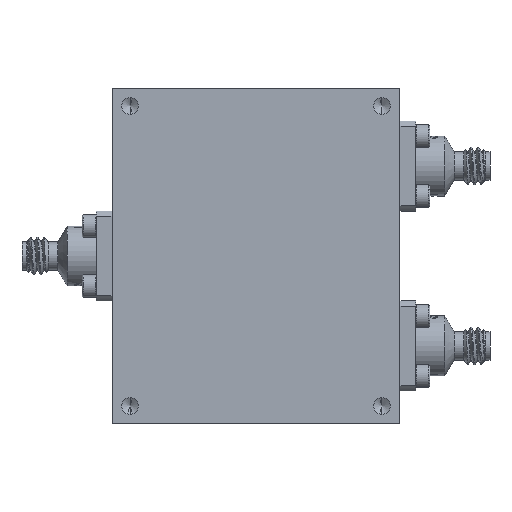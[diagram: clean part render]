
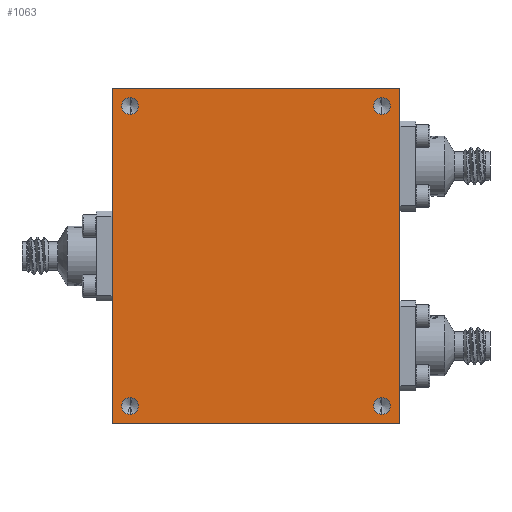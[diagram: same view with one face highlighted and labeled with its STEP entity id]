
A CAD part, front view. The second image highlights one B-rep face of the part: STEP entity #1063.
In plain terms, the highlighted planar face has unit normal (0, -1, 0).
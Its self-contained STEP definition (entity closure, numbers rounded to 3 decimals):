
#295 = VERTEX_POINT ( 'NONE', #14854 ) ;
#460 = DIRECTION ( 'NONE',  ( 0., 0., 1. ) ) ;
#485 = LINE ( 'NONE', #6801, #8363 ) ;
#548 = FACE_OUTER_BOUND ( 'NONE', #14805, .T. ) ;
#570 = CARTESIAN_POINT ( 'NONE',  ( -13.335, 0., -15.875 ) ) ;
#740 = CARTESIAN_POINT ( 'NONE',  ( 13.335, 0., 15.875 ) ) ;
#891 = ORIENTED_EDGE ( 'NONE', *, *, #10908, .F. ) ;
#900 = DIRECTION ( 'NONE',  ( 0., 0., -1. ) ) ;
#1027 = AXIS2_PLACEMENT_3D ( 'NONE', #15390, #9189, #11743 ) ;
#1056 = EDGE_LOOP ( 'NONE', ( #11579, #8454 ) ) ;
#1063 = ADVANCED_FACE ( 'NONE', ( #1938, #1693, #9067, #5463, #548 ), #8081, .F. ) ;
#1221 = DIRECTION ( 'NONE',  ( 0., 0., -1. ) ) ;
#1467 = EDGE_CURVE ( 'NONE', #12141, #9482, #7664, .T. ) ;
#1469 = CARTESIAN_POINT ( 'NONE',  ( 13.335, 0., 15.875 ) ) ;
#1693 = FACE_BOUND ( 'NONE', #1056, .T. ) ;
#1712 = CARTESIAN_POINT ( 'NONE',  ( 13.335, 0., -15.875 ) ) ;
#1938 = FACE_BOUND ( 'NONE', #5716, .T. ) ;
#2044 = DIRECTION ( 'NONE',  ( 0., 0., -1. ) ) ;
#2133 = CARTESIAN_POINT ( 'NONE',  ( 13.335, 0., -15.875 ) ) ;
#2211 = DIRECTION ( 'NONE',  ( 0., 0., -1. ) ) ;
#2361 = DIRECTION ( 'NONE',  ( 0., 0., -1. ) ) ;
#2475 = EDGE_LOOP ( 'NONE', ( #3733, #15072 ) ) ;
#2592 = AXIS2_PLACEMENT_3D ( 'NONE', #8748, #4886, #2361 ) ;
#3543 = LINE ( 'NONE', #16211, #10704 ) ;
#3733 = ORIENTED_EDGE ( 'NONE', *, *, #9626, .F. ) ;
#3970 = AXIS2_PLACEMENT_3D ( 'NONE', #4390, #14124, #460 ) ;
#4013 = ORIENTED_EDGE ( 'NONE', *, *, #9458, .F. ) ;
#4256 = DIRECTION ( 'NONE',  ( 0., 0., 1. ) ) ;
#4390 = CARTESIAN_POINT ( 'NONE',  ( 0., 0., 0. ) ) ;
#4573 = EDGE_CURVE ( 'NONE', #10822, #6621, #10577, .T. ) ;
#4886 = DIRECTION ( 'NONE',  ( 0., -1., 0. ) ) ;
#4940 = CIRCLE ( 'NONE', #2592, 0.889 ) ;
#5169 = ORIENTED_EDGE ( 'NONE', *, *, #13905, .F. ) ;
#5253 = CARTESIAN_POINT ( 'NONE',  ( 13.335, 0., 16.764 ) ) ;
#5408 = VERTEX_POINT ( 'NONE', #9180 ) ;
#5432 = EDGE_CURVE ( 'NONE', #11245, #295, #13120, .T. ) ;
#5463 = FACE_BOUND ( 'NONE', #2475, .T. ) ;
#5588 = CIRCLE ( 'NONE', #12944, 0.889 ) ;
#5716 = EDGE_LOOP ( 'NONE', ( #10871, #14137 ) ) ;
#5777 = EDGE_CURVE ( 'NONE', #15711, #8714, #7821, .T. ) ;
#5852 = DIRECTION ( 'NONE',  ( 0., 0., -1. ) ) ;
#5976 = DIRECTION ( 'NONE',  ( 0., -1., 0. ) ) ;
#5990 = DIRECTION ( 'NONE',  ( 1., 0., 0. ) ) ;
#6002 = CIRCLE ( 'NONE', #1027, 0.889 ) ;
#6384 = DIRECTION ( 'NONE',  ( 0., -1., 0. ) ) ;
#6423 = CARTESIAN_POINT ( 'NONE',  ( 15.24, 0., -17.78 ) ) ;
#6621 = VERTEX_POINT ( 'NONE', #8897 ) ;
#6801 = CARTESIAN_POINT ( 'NONE',  ( -15.24, 0., -17.78 ) ) ;
#6931 = ORIENTED_EDGE ( 'NONE', *, *, #10581, .F. ) ;
#7058 = DIRECTION ( 'NONE',  ( 0., -1., 0. ) ) ;
#7280 = LINE ( 'NONE', #12146, #13745 ) ;
#7321 = AXIS2_PLACEMENT_3D ( 'NONE', #570, #14319, #2044 ) ;
#7664 = LINE ( 'NONE', #6423, #9212 ) ;
#7779 = VERTEX_POINT ( 'NONE', #14592 ) ;
#7821 = CIRCLE ( 'NONE', #14165, 0.889 ) ;
#8009 = CARTESIAN_POINT ( 'NONE',  ( 13.335, 0., -14.986 ) ) ;
#8081 = PLANE ( 'NONE',  #3970 ) ;
#8227 = ORIENTED_EDGE ( 'NONE', *, *, #15503, .F. ) ;
#8253 = VERTEX_POINT ( 'NONE', #13774 ) ;
#8276 = CARTESIAN_POINT ( 'NONE',  ( 15.24, 0., -17.78 ) ) ;
#8363 = VECTOR ( 'NONE', #4256, 1000. ) ;
#8435 = DIRECTION ( 'NONE',  ( 0., -1., 0. ) ) ;
#8454 = ORIENTED_EDGE ( 'NONE', *, *, #5432, .F. ) ;
#8714 = VERTEX_POINT ( 'NONE', #8009 ) ;
#8748 = CARTESIAN_POINT ( 'NONE',  ( -13.335, 0., -15.875 ) ) ;
#8897 = CARTESIAN_POINT ( 'NONE',  ( 13.335, 0., 14.986 ) ) ;
#8999 = AXIS2_PLACEMENT_3D ( 'NONE', #740, #7058, #15809 ) ;
#9067 = FACE_BOUND ( 'NONE', #13620, .T. ) ;
#9180 = CARTESIAN_POINT ( 'NONE',  ( -13.335, 0., 14.986 ) ) ;
#9189 = DIRECTION ( 'NONE',  ( 0., -1., 0. ) ) ;
#9212 = VECTOR ( 'NONE', #12705, 1000. ) ;
#9458 = EDGE_CURVE ( 'NONE', #9924, #12141, #3543, .T. ) ;
#9482 = VERTEX_POINT ( 'NONE', #8276 ) ;
#9626 = EDGE_CURVE ( 'NONE', #6621, #10822, #14385, .T. ) ;
#9633 = AXIS2_PLACEMENT_3D ( 'NONE', #1469, #6384, #1221 ) ;
#9907 = DIRECTION ( 'NONE',  ( -1., 0., 0. ) ) ;
#9924 = VERTEX_POINT ( 'NONE', #10133 ) ;
#10133 = CARTESIAN_POINT ( 'NONE',  ( -15.24, 0., 17.78 ) ) ;
#10577 = CIRCLE ( 'NONE', #8999, 0.889 ) ;
#10581 = EDGE_CURVE ( 'NONE', #5408, #8253, #5588, .T. ) ;
#10611 = CARTESIAN_POINT ( 'NONE',  ( -13.335, 0., 15.875 ) ) ;
#10704 = VECTOR ( 'NONE', #5990, 1000. ) ;
#10822 = VERTEX_POINT ( 'NONE', #5253 ) ;
#10871 = ORIENTED_EDGE ( 'NONE', *, *, #5777, .F. ) ;
#10908 = EDGE_CURVE ( 'NONE', #9482, #7779, #7280, .T. ) ;
#11245 = VERTEX_POINT ( 'NONE', #13294 ) ;
#11579 = ORIENTED_EDGE ( 'NONE', *, *, #13256, .F. ) ;
#11743 = DIRECTION ( 'NONE',  ( 0., 0., -1. ) ) ;
#12141 = VERTEX_POINT ( 'NONE', #14470 ) ;
#12146 = CARTESIAN_POINT ( 'NONE',  ( -15.24, 0., -17.78 ) ) ;
#12548 = CARTESIAN_POINT ( 'NONE',  ( 13.335, 0., -16.764 ) ) ;
#12705 = DIRECTION ( 'NONE',  ( 0., 0., -1. ) ) ;
#12944 = AXIS2_PLACEMENT_3D ( 'NONE', #10611, #15668, #5852 ) ;
#13120 = CIRCLE ( 'NONE', #7321, 0.889 ) ;
#13154 = ORIENTED_EDGE ( 'NONE', *, *, #1467, .F. ) ;
#13256 = EDGE_CURVE ( 'NONE', #295, #11245, #4940, .T. ) ;
#13294 = CARTESIAN_POINT ( 'NONE',  ( -13.335, 0., -14.986 ) ) ;
#13620 = EDGE_LOOP ( 'NONE', ( #6931, #5169 ) ) ;
#13745 = VECTOR ( 'NONE', #9907, 1000. ) ;
#13774 = CARTESIAN_POINT ( 'NONE',  ( -13.335, 0., 16.764 ) ) ;
#13905 = EDGE_CURVE ( 'NONE', #8253, #5408, #6002, .T. ) ;
#14124 = DIRECTION ( 'NONE',  ( 0., 1., 0. ) ) ;
#14137 = ORIENTED_EDGE ( 'NONE', *, *, #15595, .F. ) ;
#14165 = AXIS2_PLACEMENT_3D ( 'NONE', #1712, #5976, #900 ) ;
#14319 = DIRECTION ( 'NONE',  ( 0., -1., 0. ) ) ;
#14385 = CIRCLE ( 'NONE', #9633, 0.889 ) ;
#14450 = AXIS2_PLACEMENT_3D ( 'NONE', #2133, #8435, #2211 ) ;
#14470 = CARTESIAN_POINT ( 'NONE',  ( 15.24, 0., 17.78 ) ) ;
#14592 = CARTESIAN_POINT ( 'NONE',  ( -15.24, 0., -17.78 ) ) ;
#14805 = EDGE_LOOP ( 'NONE', ( #8227, #891, #13154, #4013 ) ) ;
#14854 = CARTESIAN_POINT ( 'NONE',  ( -13.335, 0., -16.764 ) ) ;
#15072 = ORIENTED_EDGE ( 'NONE', *, *, #4573, .F. ) ;
#15390 = CARTESIAN_POINT ( 'NONE',  ( -13.335, 0., 15.875 ) ) ;
#15503 = EDGE_CURVE ( 'NONE', #7779, #9924, #485, .T. ) ;
#15595 = EDGE_CURVE ( 'NONE', #8714, #15711, #16026, .T. ) ;
#15668 = DIRECTION ( 'NONE',  ( 0., -1., 0. ) ) ;
#15711 = VERTEX_POINT ( 'NONE', #12548 ) ;
#15809 = DIRECTION ( 'NONE',  ( 0., 0., -1. ) ) ;
#16026 = CIRCLE ( 'NONE', #14450, 0.889 ) ;
#16211 = CARTESIAN_POINT ( 'NONE',  ( -15.24, 0., 17.78 ) ) ;
